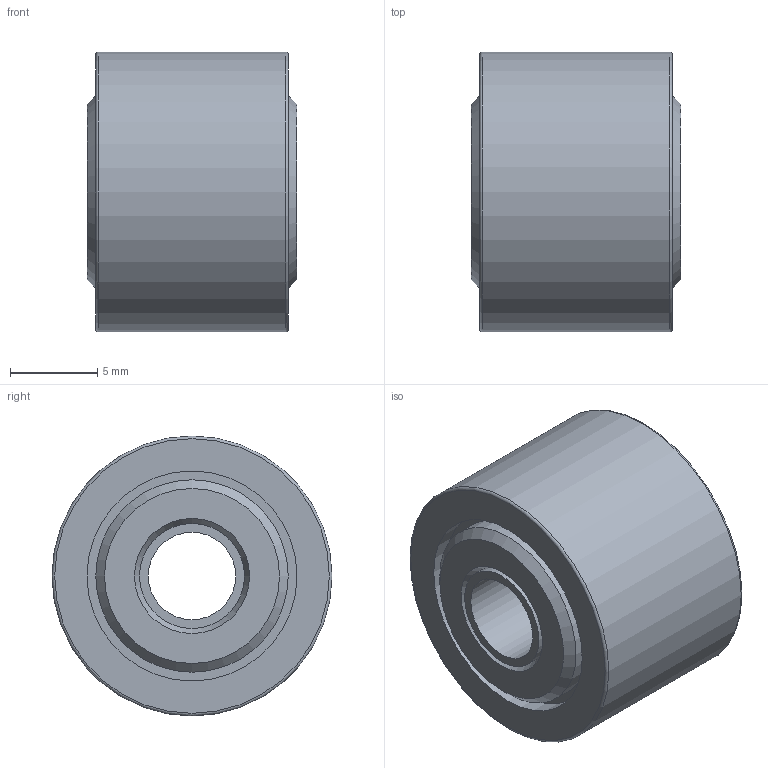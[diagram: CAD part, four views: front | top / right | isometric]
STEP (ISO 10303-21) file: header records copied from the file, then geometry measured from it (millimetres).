
FILE_DESCRIPTION(/* description */ (''),/* implementation_level */ '2;1');
FILE_NAME(/* name */ 'C:\Users\OUREHANEKD\Desktop\Ložiská 3D\MODELY\Ihlove loziska\NATR-PP\NATR-PP--\NATR5-PP.stp',/* time_stamp */ '2016-10-18T15:23:37+02:00',/* author */ ('OUREHANEKD'),/* organization */ (''),/* preprocessor_version */ 'ST-DEVELOPER v15.6',/* originating_system */ 'Autodesk Inventor 2015',/* authorisation */ '');
FILE_SCHEMA (('AUTOMOTIVE_DESIGN { 1 0 10303 214 3 1 1 }'));
Length unit declared in the file: millimetre
Products named in the file (6): NATR5-01; NATR5-02; NATR5-kl; NATR5-kr; NATR5-needle; NATR5-PP
Assembly tree (20 placements, depth 2):
  NATR5-PP
    NATR5-01
    NATR5-02
    NATR5-kl
    NATR5-kr
    NATR5-needle  x16
Bounding box: 12 x 16 x 16 mm (x, y, z)
Volume: 1984.8 mm3; surface area: 2886.4 mm2
Topology: 21 solids, 21 shells, 86 faces, 110 edges, 72 vertices
Faces by surface type: plane 48, cylinder 32, cone 4, torus 2
Full cylindrical faces by diameter (mm): 1.4 x16, 5 x1, 6 x4, 6.6 x1, 7.352 x1, 8.648 x1, 9.4 x1, 11 x4, 12 x2, 16 x1
Entity records: 1081 total; most frequent: DIRECTION 214, CARTESIAN_POINT 147, AXIS2_PLACEMENT_3D 107, EDGE_LOOP 80, ORIENTED_EDGE 80, FACE_OUTER_BOUND 41, ADVANCED_FACE 41, CIRCLE 40
